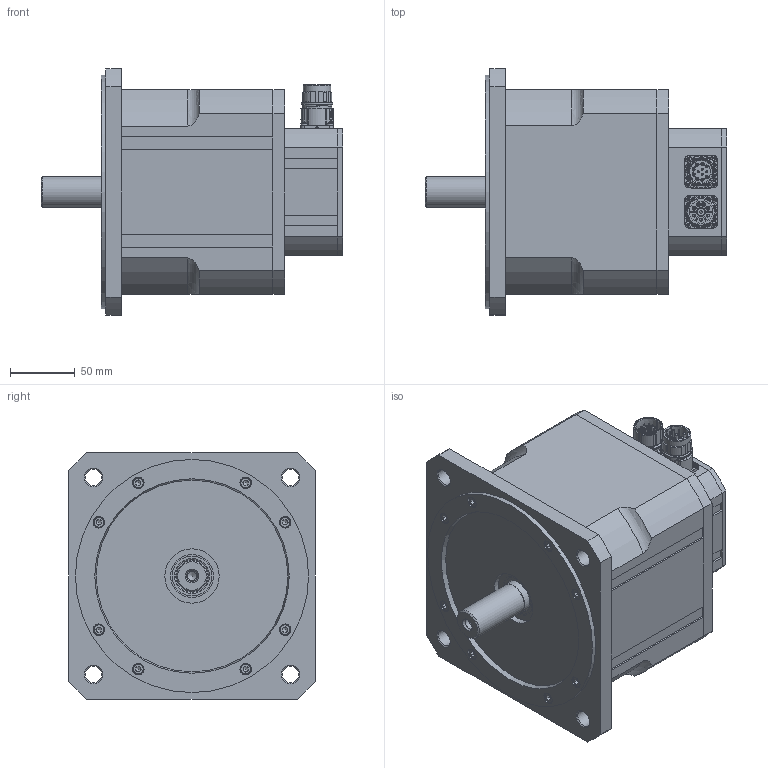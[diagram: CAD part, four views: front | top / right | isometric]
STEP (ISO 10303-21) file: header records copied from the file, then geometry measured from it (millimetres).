
FILE_DESCRIPTION(/* description */ (''),/* implementation_level */ '2;1');
FILE_NAME(/* name */ 'V:\6\N6025 00\3D Z\N6025 00 Z_2400_8P_12P.stp',/* time_stamp */ '2017-06-28T11:36:25+02:00',/* author */ ('simik'),/* organization */ (''),/* preprocessor_version */ 'ST-DEVELOPER v16.13',/* originating_system */ 'Autodesk Inventor 2018',/* authorisation */ '');
FILE_SCHEMA (('AUTOMOTIVE_DESIGN { 1 0 10303 214 3 1 1 }'));
Products named in the file (5): N6025 00 Z; N6025 00 Z_front; N6025 00 Z_2400; 127331; 127344
Assembly tree (4 placements, depth 2):
  N6025 00 Z
    N6025 00 Z_front
    N6025 00 Z_2400
    127331
    127344
Bounding box: 233 x 190 x 190 mm (x, y, z)
Volume: 1587270.4 mm3; surface area: 346151.2 mm2
Topology: 4 solids, 43 shells, 2105 faces, 5033 edges, 3107 vertices
Faces by surface type: cylinder 851, plane 670, torus 188, cone 185, bspline 164, sphere 47
Full cylindrical faces by diameter (mm): 1 x16, 1.18 x12, 1.3 x4, 2 x4, 2.013 x8, 2.15 x4, 2.208 x8, 2.4 x8, 2.459 x10, 2.5 x8, 2.7 x8, 3 x4, 3.242 x8, 3.3 x4, 3.545 x4, 3.95 x4, 4 x4, 4.134 x16, 4.4 x4, 5 x24, 5.3 x16, 5.8 x1, 6.5 x4, 6.647 x1, 6.8 x1, 8 x4, 8.4 x1, 8.5 x20, 9 x16, 13 x4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
Entity records: 67609 total; most frequent: CARTESIAN_POINT 19941, DIRECTION 9839, ORIENTED_EDGE 8778, EDGE_CURVE 4301, AXIS2_PLACEMENT_3D 4213, VERTEX_POINT 2865, EDGE_LOOP 2774, CIRCLE 2106
